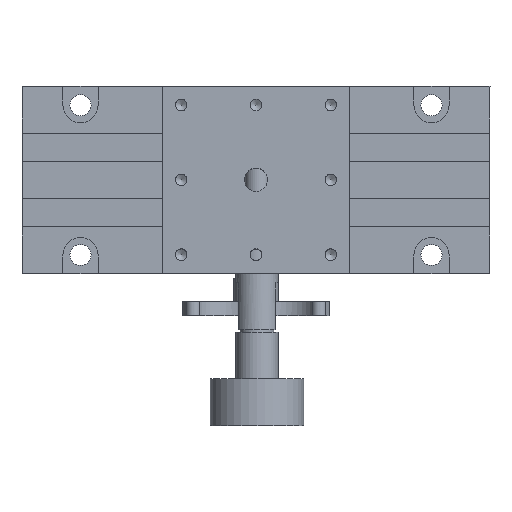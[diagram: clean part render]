
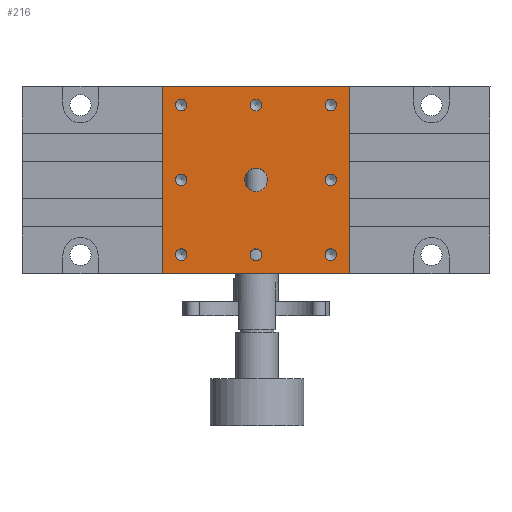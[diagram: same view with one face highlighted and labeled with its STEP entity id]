
A CAD part, top view. The second image highlights one B-rep face of the part: STEP entity #216.
In plain terms, the highlighted planar face has unit normal (0, 0, 1).
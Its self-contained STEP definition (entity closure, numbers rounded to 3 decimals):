
#216 = ADVANCED_FACE( '', ( #414, #415, #416, #417, #418, #419, #420, #421, #422, #423 ), #424, .T. );
#414 = FACE_BOUND( '', #764, .T. );
#415 = FACE_BOUND( '', #765, .T. );
#416 = FACE_BOUND( '', #766, .T. );
#417 = FACE_BOUND( '', #767, .T. );
#418 = FACE_BOUND( '', #768, .T. );
#419 = FACE_BOUND( '', #769, .T. );
#420 = FACE_BOUND( '', #770, .T. );
#421 = FACE_BOUND( '', #771, .T. );
#422 = FACE_BOUND( '', #772, .T. );
#423 = FACE_OUTER_BOUND( '', #773, .T. );
#424 = PLANE( '', #774 );
#764 = EDGE_LOOP( '', ( #1396 ) );
#765 = EDGE_LOOP( '', ( #1397 ) );
#766 = EDGE_LOOP( '', ( #1398 ) );
#767 = EDGE_LOOP( '', ( #1399 ) );
#768 = EDGE_LOOP( '', ( #1400 ) );
#769 = EDGE_LOOP( '', ( #1401 ) );
#770 = EDGE_LOOP( '', ( #1402 ) );
#771 = EDGE_LOOP( '', ( #1403 ) );
#772 = EDGE_LOOP( '', ( #1404 ) );
#773 = EDGE_LOOP( '', ( #1405, #1406, #1407, #1408 ) );
#774 = AXIS2_PLACEMENT_3D( '', #1409, #1410, #1411 );
#1396 = ORIENTED_EDGE( '', *, *, #2184, .T. );
#1397 = ORIENTED_EDGE( '', *, *, #2185, .T. );
#1398 = ORIENTED_EDGE( '', *, *, #2186, .T. );
#1399 = ORIENTED_EDGE( '', *, *, #2187, .T. );
#1400 = ORIENTED_EDGE( '', *, *, #2188, .T. );
#1401 = ORIENTED_EDGE( '', *, *, #2189, .T. );
#1402 = ORIENTED_EDGE( '', *, *, #2190, .T. );
#1403 = ORIENTED_EDGE( '', *, *, #2191, .T. );
#1404 = ORIENTED_EDGE( '', *, *, #2192, .T. );
#1405 = ORIENTED_EDGE( '', *, *, #2193, .F. );
#1406 = ORIENTED_EDGE( '', *, *, #2194, .F. );
#1407 = ORIENTED_EDGE( '', *, *, #2195, .F. );
#1408 = ORIENTED_EDGE( '', *, *, #2196, .F. );
#1409 = CARTESIAN_POINT( '', ( 0., 0., 30. ) );
#1410 = DIRECTION( '', ( 0., 0., 1. ) );
#1411 = DIRECTION( '', ( 1., 0., 0. ) );
#2184 = EDGE_CURVE( '', #2590, #2590, #2591, .T. );
#2185 = EDGE_CURVE( '', #2592, #2592, #2593, .T. );
#2186 = EDGE_CURVE( '', #2594, #2594, #2595, .T. );
#2187 = EDGE_CURVE( '', #2596, #2596, #2597, .T. );
#2188 = EDGE_CURVE( '', #2598, #2598, #2599, .T. );
#2189 = EDGE_CURVE( '', #2600, #2600, #2601, .T. );
#2190 = EDGE_CURVE( '', #2602, #2602, #2603, .T. );
#2191 = EDGE_CURVE( '', #2604, #2604, #2605, .T. );
#2192 = EDGE_CURVE( '', #2606, #2606, #2607, .T. );
#2193 = EDGE_CURVE( '', #2608, #2609, #2610, .T. );
#2194 = EDGE_CURVE( '', #2611, #2608, #2612, .T. );
#2195 = EDGE_CURVE( '', #2613, #2611, #2614, .T. );
#2196 = EDGE_CURVE( '', #2609, #2613, #2615, .T. );
#2590 = VERTEX_POINT( '', #3229 );
#2591 = CIRCLE( '', #3230, 2.5 );
#2592 = VERTEX_POINT( '', #3231 );
#2593 = CIRCLE( '', #3232, 1.25 );
#2594 = VERTEX_POINT( '', #3233 );
#2595 = CIRCLE( '', #3234, 1.25 );
#2596 = VERTEX_POINT( '', #3235 );
#2597 = CIRCLE( '', #3236, 1.25 );
#2598 = VERTEX_POINT( '', #3237 );
#2599 = CIRCLE( '', #3238, 1.25 );
#2600 = VERTEX_POINT( '', #3239 );
#2601 = CIRCLE( '', #3240, 1.25 );
#2602 = VERTEX_POINT( '', #3241 );
#2603 = CIRCLE( '', #3242, 1.25 );
#2604 = VERTEX_POINT( '', #3243 );
#2605 = CIRCLE( '', #3244, 1.25 );
#2606 = VERTEX_POINT( '', #3245 );
#2607 = CIRCLE( '', #3246, 1.25 );
#2608 = VERTEX_POINT( '', #3247 );
#2609 = VERTEX_POINT( '', #3248 );
#2610 = LINE( '', #3249, #3250 );
#2611 = VERTEX_POINT( '', #3251 );
#2612 = LINE( '', #3252, #3253 );
#2613 = VERTEX_POINT( '', #3254 );
#2614 = LINE( '', #3255, #3256 );
#2615 = LINE( '', #3257, #3258 );
#3229 = CARTESIAN_POINT( '', ( 2.5, 0., 30. ) );
#3230 = AXIS2_PLACEMENT_3D( '', #3909, #3910, #3911 );
#3231 = CARTESIAN_POINT( '', ( 17.25, 0., 30. ) );
#3232 = AXIS2_PLACEMENT_3D( '', #3912, #3913, #3914 );
#3233 = CARTESIAN_POINT( '', ( 17.25, 16., 30. ) );
#3234 = AXIS2_PLACEMENT_3D( '', #3915, #3916, #3917 );
#3235 = CARTESIAN_POINT( '', ( 1.25, 16., 30. ) );
#3236 = AXIS2_PLACEMENT_3D( '', #3918, #3919, #3920 );
#3237 = CARTESIAN_POINT( '', ( -14.75, 16., 30. ) );
#3238 = AXIS2_PLACEMENT_3D( '', #3921, #3922, #3923 );
#3239 = CARTESIAN_POINT( '', ( -14.75, 0., 30. ) );
#3240 = AXIS2_PLACEMENT_3D( '', #3924, #3925, #3926 );
#3241 = CARTESIAN_POINT( '', ( -14.75, -16., 30. ) );
#3242 = AXIS2_PLACEMENT_3D( '', #3927, #3928, #3929 );
#3243 = CARTESIAN_POINT( '', ( 1.25, -16., 30. ) );
#3244 = AXIS2_PLACEMENT_3D( '', #3930, #3931, #3932 );
#3245 = CARTESIAN_POINT( '', ( 17.25, -16., 30. ) );
#3246 = AXIS2_PLACEMENT_3D( '', #3933, #3934, #3935 );
#3247 = CARTESIAN_POINT( '', ( 20., -20., 30. ) );
#3248 = CARTESIAN_POINT( '', ( -20., -20., 30. ) );
#3249 = CARTESIAN_POINT( '', ( 0., -20., 30. ) );
#3250 = VECTOR( '', #3936, 1000. );
#3251 = CARTESIAN_POINT( '', ( 20., 20., 30. ) );
#3252 = CARTESIAN_POINT( '', ( 20., 0., 30. ) );
#3253 = VECTOR( '', #3937, 1000. );
#3254 = CARTESIAN_POINT( '', ( -20., 20., 30. ) );
#3255 = CARTESIAN_POINT( '', ( 0., 20., 30. ) );
#3256 = VECTOR( '', #3938, 1000. );
#3257 = CARTESIAN_POINT( '', ( -20., 0., 30. ) );
#3258 = VECTOR( '', #3939, 1000. );
#3909 = CARTESIAN_POINT( '', ( 0., 0., 30. ) );
#3910 = DIRECTION( '', ( 0., 0., -1. ) );
#3911 = DIRECTION( '', ( 1., 0., 0. ) );
#3912 = CARTESIAN_POINT( '', ( 16., 0., 30. ) );
#3913 = DIRECTION( '', ( 0., 0., -1. ) );
#3914 = DIRECTION( '', ( 1., 0., 0. ) );
#3915 = CARTESIAN_POINT( '', ( 16., 16., 30. ) );
#3916 = DIRECTION( '', ( 0., 0., -1. ) );
#3917 = DIRECTION( '', ( 1., 0., 0. ) );
#3918 = CARTESIAN_POINT( '', ( 0., 16., 30. ) );
#3919 = DIRECTION( '', ( 0., 0., -1. ) );
#3920 = DIRECTION( '', ( 1., 0., 0. ) );
#3921 = CARTESIAN_POINT( '', ( -16., 16., 30. ) );
#3922 = DIRECTION( '', ( 0., 0., -1. ) );
#3923 = DIRECTION( '', ( 1., 0., 0. ) );
#3924 = CARTESIAN_POINT( '', ( -16., 0., 30. ) );
#3925 = DIRECTION( '', ( 0., 0., -1. ) );
#3926 = DIRECTION( '', ( 1., 0., 0. ) );
#3927 = CARTESIAN_POINT( '', ( -16., -16., 30. ) );
#3928 = DIRECTION( '', ( 0., 0., -1. ) );
#3929 = DIRECTION( '', ( 1., 0., 0. ) );
#3930 = CARTESIAN_POINT( '', ( 0., -16., 30. ) );
#3931 = DIRECTION( '', ( 0., 0., -1. ) );
#3932 = DIRECTION( '', ( 1., 0., 0. ) );
#3933 = CARTESIAN_POINT( '', ( 16., -16., 30. ) );
#3934 = DIRECTION( '', ( 0., 0., -1. ) );
#3935 = DIRECTION( '', ( 1., 0., 0. ) );
#3936 = DIRECTION( '', ( -1., 0., 0. ) );
#3937 = DIRECTION( '', ( 0., -1., 0. ) );
#3938 = DIRECTION( '', ( 1., 0., 0. ) );
#3939 = DIRECTION( '', ( 0., 1., 0. ) );
